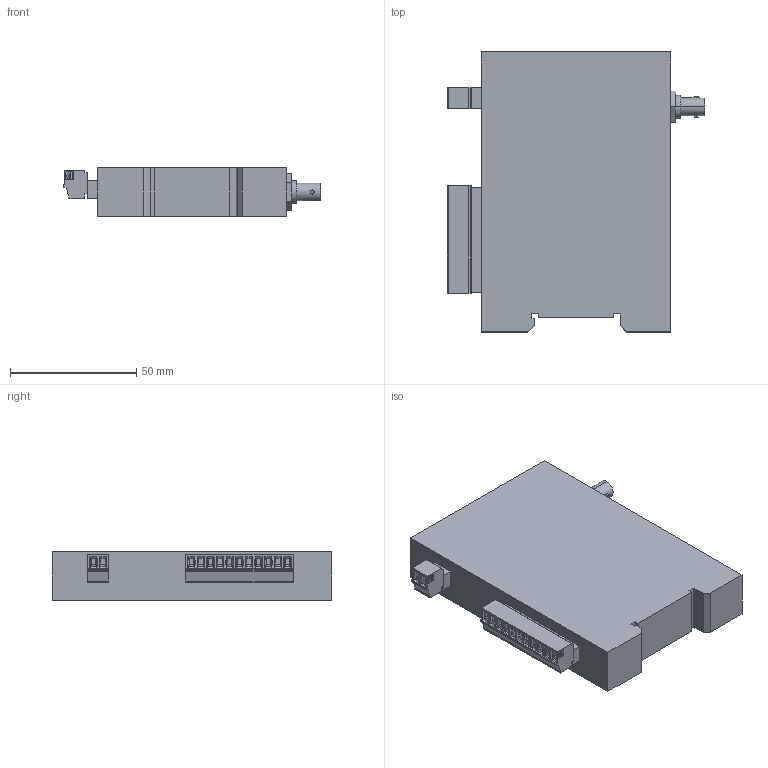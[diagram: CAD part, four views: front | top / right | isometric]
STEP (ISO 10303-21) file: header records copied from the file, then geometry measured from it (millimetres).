
FILE_DESCRIPTION (( 'STEP AP214' ), '1' );
FILE_NAME ('6.LWLA.E40.STEP', '2019-05-07T08:03:50', ( '' ), ( '' ), 'SwSTEP 2.0', 'SolidWorks 2017', '' );
FILE_SCHEMA (( 'AUTOMOTIVE_DESIGN' ));
Length unit declared in the file: millimetre
Products named in the file (1): 6.LWLA.E40
Bounding box: 102 x 110.8 x 19 mm (x, y, z)
Surface area: 27775 mm2 (no closed solid volume)
Topology: 0 solids, 35 shells, 359 faces, 1554 edges, 1192 vertices
Faces by surface type: plane 174, cylinder 107, bspline 52, cone 26
Entity records: 21234 total; most frequent: CARTESIAN_POINT 5282, ORIENTED_EDGE 2407, DIRECTION 2249, EDGE_CURVE 1554, VERTEX_POINT 1192, VECTOR 827, LINE 827, AXIS2_PLACEMENT_3D 711
